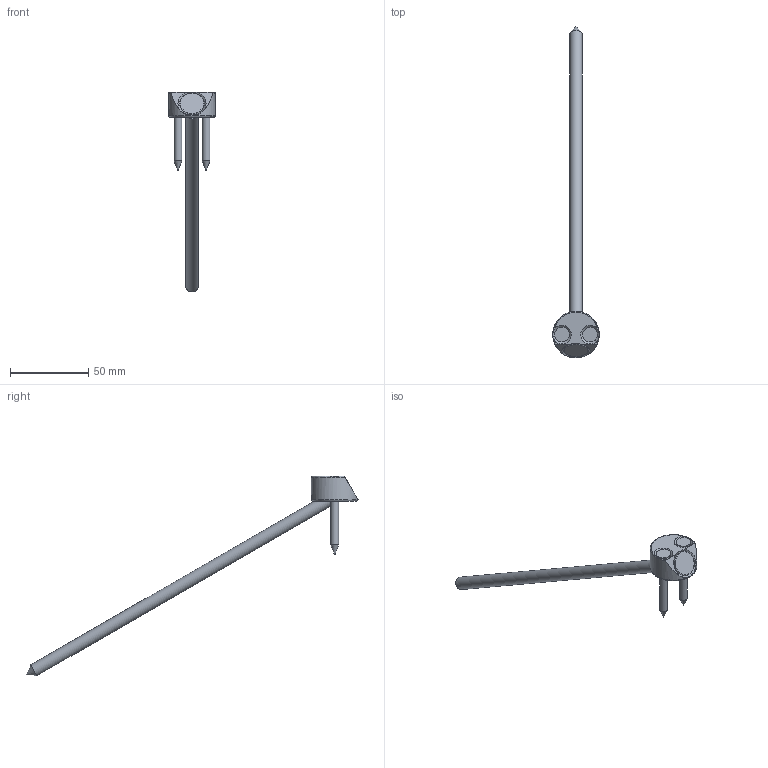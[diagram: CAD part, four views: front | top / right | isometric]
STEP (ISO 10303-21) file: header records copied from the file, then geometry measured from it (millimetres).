
FILE_DESCRIPTION(/* description */ ('Unknown'),/* implementation_level */ '2;1');
FILE_NAME(/* name */ 'T-JOINT_D30_W30_2xSK 5x50_1xSK 8x240',/* time_stamp */ '2022-02-03T08:52:13+01:00',/* author */ ('Unknown'),/* organization */ ('Unknown'),/* preprocessor_version */ 'ST-DEVELOPER v16.7',/* originating_system */ 'Solid Edge',/* authorisation */ 'Unknown');
FILE_SCHEMA (('AUTOMOTIVE_DESIGN {1 0 10303 214 3 1 1}'));
Length unit declared in the file: millimetre
Products named in the file (4): T-Joint_D30_W30_2xSK5x50_1xSK8x240; T-Joint_D30_W30; SK Schraube 5x50_ohne_Gewinde; SK Knapp Schraube 8x240_ohne_Gewinde_22042020
Assembly tree (4 placements, depth 2):
  T-Joint_D30_W30_2xSK5x50_1xSK8x240
    T-Joint_D30_W30
    SK Schraube 5x50_ohne_Gewinde  x2
    SK Knapp Schraube 8x240_ohne_Gewinde_22042020
Bounding box: 29.78 x 212.48 x 127.73 mm (x, y, z)
Volume: 21231.9 mm3; surface area: 11432.1 mm2
Topology: 4 solids, 4 shells, 33 faces, 74 edges, 45 vertices
Faces by surface type: cylinder 11, cone 10, plane 9, torus 3
Full cylindrical faces by diameter (mm): 5 x2, 6 x1, 6.2 x2, 8 x2, 9.5 x2, 10.5 x1
Entity records: 768 total; most frequent: CARTESIAN_POINT 140, DIRECTION 126, ORIENTED_EDGE 78, AXIS2_PLACEMENT_3D 62, FACE_BOUND 48, EDGE_LOOP 47, EDGE_CURVE 39, VERTEX_POINT 33
